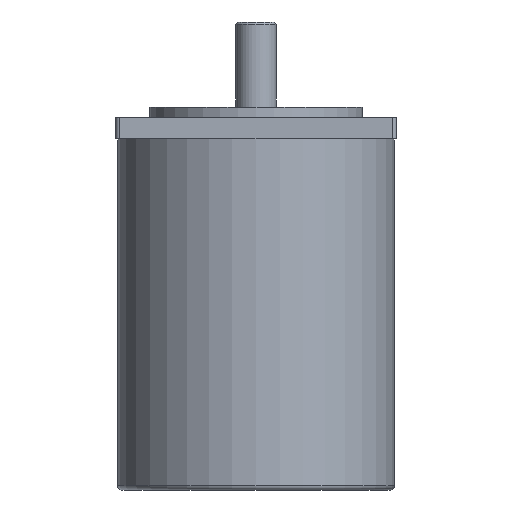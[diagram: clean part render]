
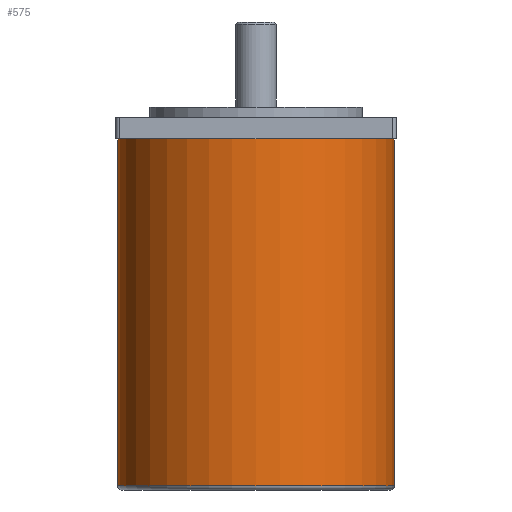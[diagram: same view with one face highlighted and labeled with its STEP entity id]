
A CAD part, front view. The second image highlights one B-rep face of the part: STEP entity #575.
In plain terms, the highlighted cylindrical face has radius 65 mm (diameter 130 mm), a partial arc.
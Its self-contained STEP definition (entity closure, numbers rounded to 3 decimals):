
#115 = DIRECTION ( 'NONE',  ( 1., 0., 0. ) ) ;
#154 = DIRECTION ( 'NONE',  ( -1., 0., 0. ) ) ;
#213 = LINE ( 'NONE', #852, #784 ) ;
#251 = VERTEX_POINT ( 'NONE', #1766 ) ;
#278 = CYLINDRICAL_SURFACE ( 'NONE', #1453, 65. ) ;
#316 = VERTEX_POINT ( 'NONE', #622 ) ;
#476 = VECTOR ( 'NONE', #1800, 1000. ) ;
#492 = CARTESIAN_POINT ( 'NONE',  ( 65., 0., 0. ) ) ;
#565 = AXIS2_PLACEMENT_3D ( 'NONE', #1349, #1949, #570 ) ;
#566 = LINE ( 'NONE', #1206, #476 ) ;
#570 = DIRECTION ( 'NONE',  ( -1., 0., 0. ) ) ;
#575 = ADVANCED_FACE ( 'NONE', ( #1674 ), #278, .T. ) ;
#577 = ORIENTED_EDGE ( 'NONE', *, *, #856, .F. ) ;
#622 = CARTESIAN_POINT ( 'NONE',  ( -65., 0., -163. ) ) ;
#660 = EDGE_LOOP ( 'NONE', ( #577, #1947, #1448, #1994 ) ) ;
#668 = EDGE_CURVE ( 'NONE', #316, #1638, #1774, .T. ) ;
#784 = VECTOR ( 'NONE', #1461, 1000. ) ;
#852 = CARTESIAN_POINT ( 'NONE',  ( -65., 0., -165. ) ) ;
#856 = EDGE_CURVE ( 'NONE', #316, #251, #213, .T. ) ;
#912 = AXIS2_PLACEMENT_3D ( 'NONE', #950, #1547, #154 ) ;
#915 = CARTESIAN_POINT ( 'NONE',  ( 0., 0., -165. ) ) ;
#950 = CARTESIAN_POINT ( 'NONE',  ( 0., 0., -163. ) ) ;
#1053 = EDGE_CURVE ( 'NONE', #1638, #1207, #566, .T. ) ;
#1198 = CIRCLE ( 'NONE', #565, 65. ) ;
#1206 = CARTESIAN_POINT ( 'NONE',  ( 65., 0., -165. ) ) ;
#1207 = VERTEX_POINT ( 'NONE', #492 ) ;
#1349 = CARTESIAN_POINT ( 'NONE',  ( 0., 0., 0. ) ) ;
#1448 = ORIENTED_EDGE ( 'NONE', *, *, #1053, .T. ) ;
#1453 = AXIS2_PLACEMENT_3D ( 'NONE', #915, #1521, #115 ) ;
#1461 = DIRECTION ( 'NONE',  ( 0., 0., 1. ) ) ;
#1521 = DIRECTION ( 'NONE',  ( 0., 0., 1. ) ) ;
#1547 = DIRECTION ( 'NONE',  ( 0., 0., 1. ) ) ;
#1638 = VERTEX_POINT ( 'NONE', #1732 ) ;
#1674 = FACE_OUTER_BOUND ( 'NONE', #660, .T. ) ;
#1732 = CARTESIAN_POINT ( 'NONE',  ( 65., 0., -163. ) ) ;
#1766 = CARTESIAN_POINT ( 'NONE',  ( -65., 0., 0. ) ) ;
#1774 = CIRCLE ( 'NONE', #912, 65. ) ;
#1800 = DIRECTION ( 'NONE',  ( 0., 0., 1. ) ) ;
#1947 = ORIENTED_EDGE ( 'NONE', *, *, #668, .T. ) ;
#1949 = DIRECTION ( 'NONE',  ( 0., 0., -1. ) ) ;
#1975 = EDGE_CURVE ( 'NONE', #1207, #251, #1198, .T. ) ;
#1994 = ORIENTED_EDGE ( 'NONE', *, *, #1975, .T. ) ;
